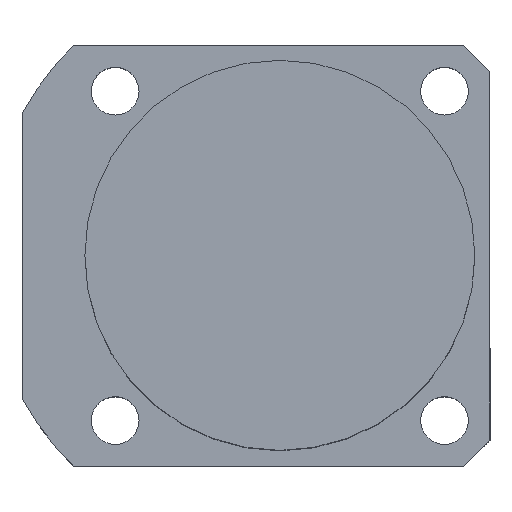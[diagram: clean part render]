
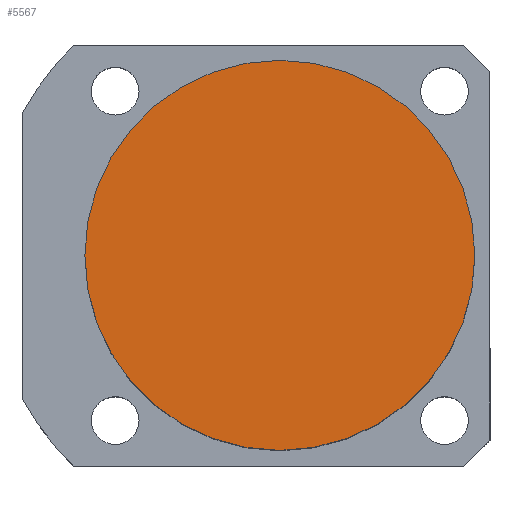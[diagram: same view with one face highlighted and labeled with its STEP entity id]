
A CAD part, top view. The second image highlights one B-rep face of the part: STEP entity #5567.
In plain terms, the highlighted planar face has unit normal (0, 0, 1).
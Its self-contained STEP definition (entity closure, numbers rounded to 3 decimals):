
#129 = AXIS2_PLACEMENT_3D ( 'NONE', #2201, #6015, #2738 ) ;
#676 = VERTEX_POINT ( 'NONE', #3069 ) ;
#875 = CARTESIAN_POINT ( 'NONE',  ( 0., 0., 84.5 ) ) ;
#1063 = VERTEX_POINT ( 'NONE', #3918 ) ;
#1429 = PLANE ( 'NONE',  #6577 ) ;
#1762 = ORIENTED_EDGE ( 'NONE', *, *, #6350, .T. ) ;
#1942 = ORIENTED_EDGE ( 'NONE', *, *, #6251, .T. ) ;
#1993 = DIRECTION ( 'NONE',  ( 0., 0., 1. ) ) ;
#2201 = CARTESIAN_POINT ( 'NONE',  ( 0., 0., 84.5 ) ) ;
#2500 = CIRCLE ( 'NONE', #5781, 45. ) ;
#2738 = DIRECTION ( 'NONE',  ( 1., 0., 0. ) ) ;
#3044 = DIRECTION ( 'NONE',  ( 0., 0., 1. ) ) ;
#3069 = CARTESIAN_POINT ( 'NONE',  ( 45., 0., 84.5 ) ) ;
#3509 = EDGE_LOOP ( 'NONE', ( #1942, #1762 ) ) ;
#3918 = CARTESIAN_POINT ( 'NONE',  ( -45., 0., 84.5 ) ) ;
#5567 = ADVANCED_FACE ( 'NONE', ( #5997 ), #1429, .T. ) ;
#5781 = AXIS2_PLACEMENT_3D ( 'NONE', #6323, #3044, #6869 ) ;
#5815 = DIRECTION ( 'NONE',  ( 1., 0., 0. ) ) ;
#5997 = FACE_OUTER_BOUND ( 'NONE', #3509, .T. ) ;
#6015 = DIRECTION ( 'NONE',  ( 0., 0., 1. ) ) ;
#6251 = EDGE_CURVE ( 'NONE', #1063, #676, #2500, .T. ) ;
#6323 = CARTESIAN_POINT ( 'NONE',  ( 0., 0., 84.5 ) ) ;
#6350 = EDGE_CURVE ( 'NONE', #676, #1063, #6686, .T. ) ;
#6577 = AXIS2_PLACEMENT_3D ( 'NONE', #875, #1993, #5815 ) ;
#6686 = CIRCLE ( 'NONE', #129, 45. ) ;
#6869 = DIRECTION ( 'NONE',  ( 1., 0., 0. ) ) ;
